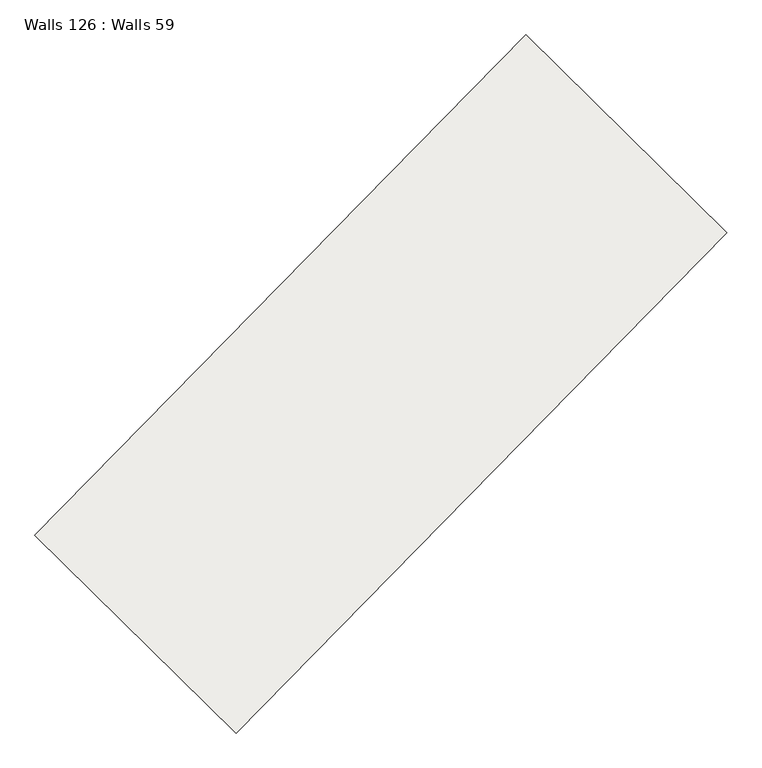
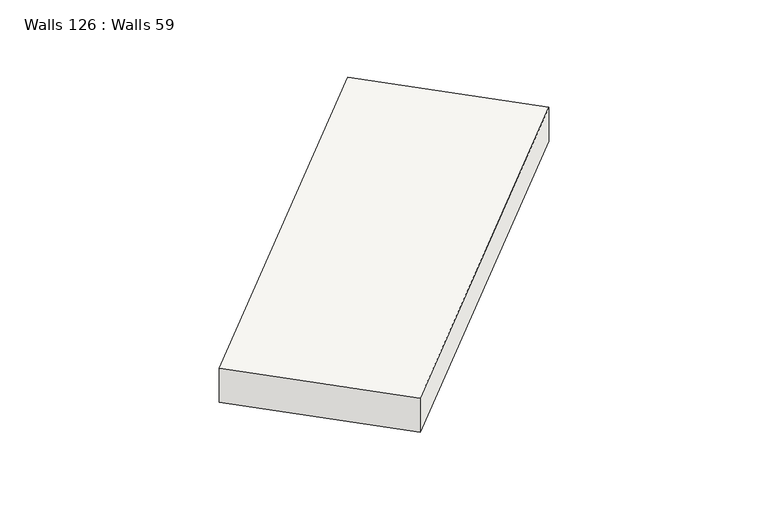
"""IFC4 building model written with IfcOpenShell, lengths in millimetres: slab geometry, Walls 126 : Walls 59."""

import ifcopenshell
import ifcopenshell.guid

model = None  # the IFC model being written
_history = None  # IfcOwnerHistory: only IFC2X3 demands one
_inside = {}  # id of a spatial element -> (the spatial element, [elements in it])
_under = {}  # id of a project, library or spatial element -> (it, [spatial elements below it])
_declared = {}  # id of a project -> (the project, [libraries it declares])
_typed = {}  # id of a type object -> (the type object, [elements of that type])
_made_of = {}  # id of a material, layer set ... -> (it, [elements and type objects made of it])


def new_model(schema):
    """Start an empty IFC model of exactly this schema.

    Asked for "IFC4X3", IfcOpenShell would pick the latest addendum, in which some entities
    have other attributes; the version numbers below select the first issue.
    IFC2X3 requires an IfcOwnerHistory on every rooted entity: one is made here for all.
    """
    global model, _history
    if schema == "IFC4X3":
        model = ifcopenshell.file(schema_version=(4, 3, 0, 0))
    else:
        model = ifcopenshell.file(schema=schema)
    _inside.clear()
    _under.clear()
    _declared.clear()
    _typed.clear()
    _made_of.clear()
    _history = None
    if model.schema == "IFC2X3":
        org = make("IfcOrganization", Name="unknown")
        user = make(
            "IfcPersonAndOrganization",
            ThePerson=make("IfcPerson", FamilyName="unknown"),
            TheOrganization=org,
        )
        app = make(
            "IfcApplication",
            ApplicationDeveloper=org,
            Version="unknown",
            ApplicationFullName="unknown",
            ApplicationIdentifier="unknown",
        )
        _history = make(
            "IfcOwnerHistory",
            OwningUser=user,
            OwningApplication=app,
            ChangeAction="ADDED",
            CreationDate=0,
        )
    return model


def make(cls, **values):
    """One entity of the class cls with the attributes given. An attribute that is None is left unset."""
    return model.create_entity(
        cls, **{name: value for name, value in values.items() if value is not None}
    )


def rooted(cls, **values):
    """An entity with a GlobalId (a new one), such as an element, a storey or a relation."""
    return make(cls, GlobalId=ifcopenshell.guid.new(), OwnerHistory=_history, **values)


def si_unit(unit_type, name, prefix=None):
    """IfcSIUnit, for example si_unit("LENGTHUNIT", "METRE", prefix="MILLI")."""
    return make("IfcSIUnit", UnitType=unit_type, Prefix=prefix, Name=name)


def assignment(units):
    """IfcUnitAssignment: the units of a project."""
    return None if units is None else make("IfcUnitAssignment", Units=units)


def point(xyz):
    """IfcCartesianPoint."""
    return None if xyz is None else make("IfcCartesianPoint", Coordinates=xyz)


def direction(xyz):
    """IfcDirection."""
    return None if xyz is None else make("IfcDirection", DirectionRatios=xyz)


def frame(location, z_axis=None, x_axis=None):
    """IfcAxis2Placement3D, a coordinate frame: its origin and axes. An axis left out is left unset."""
    return make(
        "IfcAxis2Placement3D",
        Location=point(location),
        Axis=direction(z_axis),
        RefDirection=direction(x_axis),
    )


def origin():
    """The frame at (0, 0, 0) with its axes left unset."""
    return frame((0.0, 0.0, 0.0))


def place(relative_to, where):
    """IfcLocalPlacement: puts the frame where relative to a parent placement (None: the world)."""
    return make(
        "IfcLocalPlacement", PlacementRelTo=relative_to, RelativePlacement=where
    )


def context(
    kind, dimensions, precision=None, world=None, true_north=None, identifier=None
):
    """IfcGeometricRepresentationContext, for example the 3D "Model" context."""
    return make(
        "IfcGeometricRepresentationContext",
        ContextIdentifier=identifier,
        ContextType=kind,
        CoordinateSpaceDimension=dimensions,
        Precision=precision,
        WorldCoordinateSystem=world,
        TrueNorth=true_north,
    )


def project(units=None, contexts=None):
    """IfcProject with its units and contexts."""
    return rooted(
        "IfcProject",
        Name="project",
        RepresentationContexts=contexts,
        UnitsInContext=assignment(units),
    )


def spatial(cls, under=None, at=None, **own):
    """A site, building, storey or space (cls), placed at a placement, below another one or the project."""
    s = rooted(cls, ObjectPlacement=at, **own)
    if under is not None:
        _under.setdefault(under.id(), (under, []))[1].append(s)
    return s


def polyline(points):
    """IfcPolyline through the points."""
    return make("IfcPolyline", Points=[point(p) for p in points])


def outline(outer, holes=None, kind="AREA"):
    """IfcArbitraryClosedProfileDef: a profile drawn as a closed curve; with holes, ...WithVoids."""
    if holes is None:
        return make("IfcArbitraryClosedProfileDef", ProfileType=kind, OuterCurve=outer)
    return make(
        "IfcArbitraryProfileDefWithVoids",
        ProfileType=kind,
        OuterCurve=outer,
        InnerCurves=holes,
    )


def extrude(swept, where, along, depth):
    """IfcExtrudedAreaSolid: the profile swept, set in the frame where, extruded along a direction by depth."""
    return make(
        "IfcExtrudedAreaSolid",
        SweptArea=swept,
        Position=where,
        ExtrudedDirection=direction(along),
        Depth=depth,
    )


def shape(context_of_items, identifier, shape_type, items):
    """IfcShapeRepresentation: the items that make up one representation, for example the "Body"."""
    return make(
        "IfcShapeRepresentation",
        ContextOfItems=context_of_items,
        RepresentationIdentifier=identifier,
        RepresentationType=shape_type,
        Items=items,
    )


def source(mapping_origin, context_of_items, identifier, shape_type, items):
    """IfcRepresentationMap: a shape defined once, which mapped items show again and again."""
    return make(
        "IfcRepresentationMap",
        MappingOrigin=mapping_origin,
        MappedRepresentation=shape(context_of_items, identifier, shape_type, items),
    )


def transform(
    local_origin,
    x_axis=None,
    y_axis=None,
    z_axis=None,
    scale=None,
    scale2=None,
    scale3=None,
    uniform=True,
):
    """IfcCartesianTransformationOperator3D, or its non-uniform kind. x_axis, y_axis, z_axis: its Axis1, 2, 3."""
    if uniform:
        return make(
            "IfcCartesianTransformationOperator3D",
            Axis1=direction(x_axis),
            Axis2=direction(y_axis),
            LocalOrigin=point(local_origin),
            Scale=scale,
            Axis3=direction(z_axis),
        )
    return make(
        "IfcCartesianTransformationOperator3DnonUniform",
        Axis1=direction(x_axis),
        Axis2=direction(y_axis),
        LocalOrigin=point(local_origin),
        Scale=scale,
        Axis3=direction(z_axis),
        Scale2=scale2,
        Scale3=scale3,
    )


def mapped(mapping_source, mapping_target):
    """IfcMappedItem: shows the shape of a source again, moved by a transform."""
    return make(
        "IfcMappedItem", MappingSource=mapping_source, MappingTarget=mapping_target
    )


def made_of(thing, what):
    """Note that an element or type object is made of a material, layer set ...; save() writes the relation."""
    if what is not None:
        _made_of.setdefault(what.id(), (what, []))[1].append(thing)
    return thing


def element(
    cls,
    number,
    at=None,
    inside=None,
    cuts=None,
    type_object=None,
    material=None,
    context=None,
    identifier="Body",
    shape_type=None,
    held_by="IfcProductDefinitionShape",
    body=None,
    shapes=None,
    **own,
):
    """One element of the class cls, such as IfcWall. Its Tag is "e" and its number.

    at: its placement. inside: the storey or other place that contains it. cuts: it is an
    opening in that element (IfcRelVoidsElement). A single representation is given by context,
    identifier, shape_type and body (its items); several are given by shapes. held_by: the class
    of the entity that holds the representations. save() writes the other relations.
    """
    e = rooted(cls, Tag="e%d" % number, ObjectPlacement=at, **own)
    if body is not None:
        shapes = [shape(context, identifier, shape_type, body)]
    if shapes is not None:
        e.Representation = make(held_by, Representations=shapes)
    if inside is not None:
        _inside.setdefault(inside.id(), (inside, []))[1].append(e)
    if cuts is not None:
        rooted(
            "IfcRelVoidsElement", RelatingBuildingElement=cuts, RelatedOpeningElement=e
        )
    if type_object is not None:
        _typed.setdefault(type_object.id(), (type_object, []))[1].append(e)
    return made_of(e, material)


def aggregate(whole, parts):
    """IfcRelAggregates: a whole, such as a stair, and the parts it consists of."""
    return rooted("IfcRelAggregates", RelatingObject=whole, RelatedObjects=parts)


def save(model, path):
    """Write the relations noted so far, then the file.

    IfcRelAggregates (storeys below a building ...), IfcRelContainedInSpatialStructure (elements
    in a storey), IfcRelDefinesByType, IfcRelAssociatesMaterial and IfcRelDeclares: one each for
    every whole, place, type object, material and project.
    """
    for whole, parts in _under.values():
        aggregate(whole, parts)
    for where, things in _inside.values():
        rooted(
            "IfcRelContainedInSpatialStructure",
            RelatedElements=things,
            RelatingStructure=where,
        )
    for kind, things in _typed.values():
        rooted("IfcRelDefinesByType", RelatedObjects=things, RelatingType=kind)
    for what, things in _made_of.values():
        rooted("IfcRelAssociatesMaterial", RelatedObjects=things, RelatingMaterial=what)
    for by, libraries in _declared.values():
        rooted("IfcRelDeclares", RelatingContext=by, RelatedDefinitions=libraries)
    model.write(path)


def walls_126_walls_59_ef39a039(model_context):
    return source(origin(), model_context, "Body", "SweptSolid", [
        extrude(outline(polyline([(-350.0, 0.0), (350.0, 0.0), (260.0, -8699.9999996), (-440.0, -8699.9999996), (-350.0, 0.0)])), frame((-24395.9966306, -184062.1263284, 638090.0), z_axis=(-0.713736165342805, 0.7004146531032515, 0.0), x_axis=(0.0, 0.0, 1.0)), (0.0, 0.0, 1.0), 3499.999995),
    ])


if __name__ == "__main__":
    model = new_model("IFC4")
    model_context = context("Model", 3, world=origin())
    ifc_project = project(units=[si_unit("LENGTHUNIT", "METRE", prefix="MILLI")], contexts=[model_context])
    site = spatial("IfcSite", under=ifc_project)
    building = spatial("IfcBuilding", under=site)
    placement = place(None, origin())
    walls_126_walls_59_shape = walls_126_walls_59_ef39a039(model_context)
    element("IfcSlab", 1, ObjectType="Walls 126 : Walls 59", at=placement, inside=building, context=model_context, shape_type="MappedRepresentation", body=[
        mapped(walls_126_walls_59_shape, transform((0.0, 0.0, 0.0), x_axis=(1.0, 0.0, 0.0), y_axis=(0.0, 1.0, 0.0), z_axis=(0.0, 0.0, 1.0))),
    ])
    save(model, "model.ifc")
